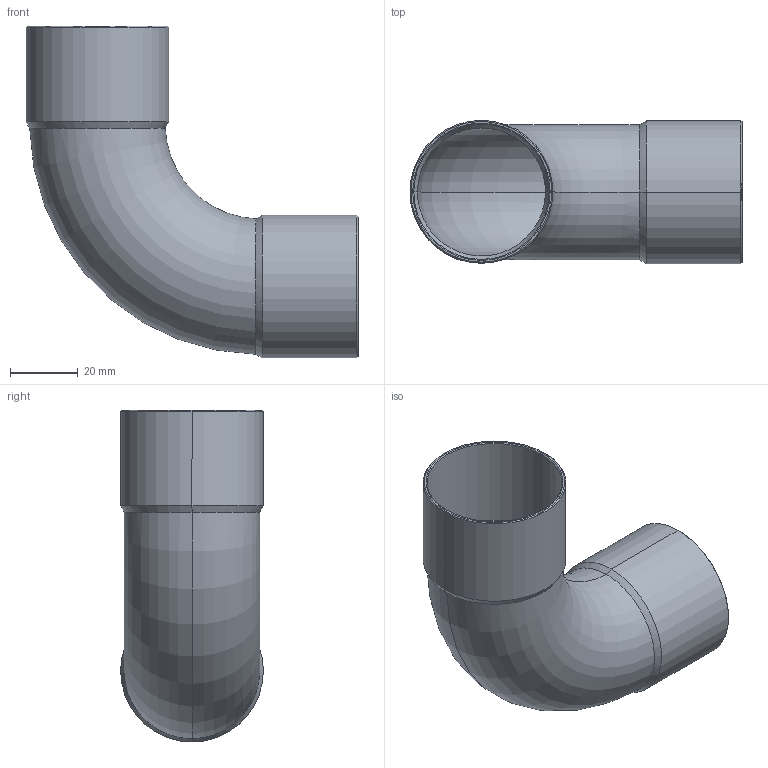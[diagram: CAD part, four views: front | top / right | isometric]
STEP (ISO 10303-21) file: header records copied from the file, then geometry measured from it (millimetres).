
FILE_DESCRIPTION((''),'2;1');
FILE_NAME('D:\5002\15002a40.stp','2005-10-04T11:47:09',('Kris'),(''),'Autodesk Inventor 8','Autodesk Inventor 8','');
FILE_SCHEMA(('AUTOMOTIVE_DESIGN { 1 0 10303 214 1 1 1 1 }'));
Length unit declared in the file: millimetre
Products named in the file (1): 15002a40
Bounding box: 98.1 x 42.2 x 98.1 mm (x, y, z)
Volume: 18432.8 mm3; surface area: 33749.1 mm2
Topology: 1 solids, 1 shells, 30 faces, 60 edges, 32 vertices
Faces by surface type: cone 12, bspline 9, torus 4, cylinder 4, plane 1
Entity records: 1027 total; most frequent: CARTESIAN_POINT 414, DIRECTION 124, ORIENTED_EDGE 120, EDGE_CURVE 60, AXIS2_PLACEMENT_3D 50, VERTEX_POINT 32, EDGE_LOOP 32, FACE_OUTER_BOUND 30
